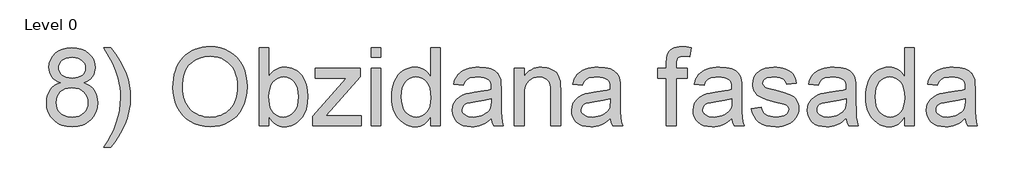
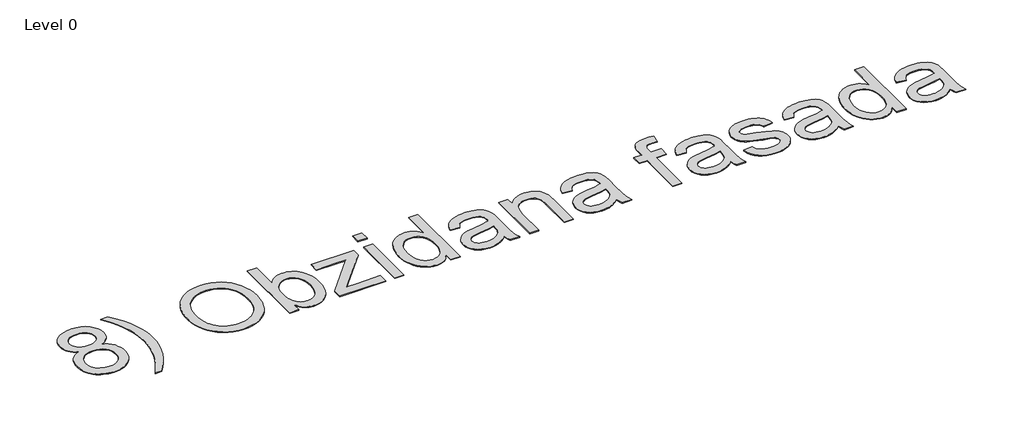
# One storey, part 7 of 11: 1 proxy.
"""IFC4 building model written with IfcOpenShell, lengths in millimetres."""

import ifcopenshell
import ifcopenshell.guid

model = None  # the IFC model being written
_history = None  # IfcOwnerHistory: only IFC2X3 demands one
_inside = {}  # id of a spatial element -> (the spatial element, [elements in it])
_under = {}  # id of a project, library or spatial element -> (it, [spatial elements below it])
_declared = {}  # id of a project -> (the project, [libraries it declares])
_typed = {}  # id of a type object -> (the type object, [elements of that type])
_made_of = {}  # id of a material, layer set ... -> (it, [elements and type objects made of it])


def new_model(schema):
    """Start an empty IFC model of exactly this schema.

    Asked for "IFC4X3", IfcOpenShell would pick the latest addendum, in which some entities
    have other attributes; the version numbers below select the first issue.
    IFC2X3 requires an IfcOwnerHistory on every rooted entity: one is made here for all.
    """
    global model, _history
    if schema == "IFC4X3":
        model = ifcopenshell.file(schema_version=(4, 3, 0, 0))
    else:
        model = ifcopenshell.file(schema=schema)
    _inside.clear()
    _under.clear()
    _declared.clear()
    _typed.clear()
    _made_of.clear()
    _history = None
    if model.schema == "IFC2X3":
        org = make("IfcOrganization", Name="unknown")
        user = make(
            "IfcPersonAndOrganization",
            ThePerson=make("IfcPerson", FamilyName="unknown"),
            TheOrganization=org,
        )
        app = make(
            "IfcApplication",
            ApplicationDeveloper=org,
            Version="unknown",
            ApplicationFullName="unknown",
            ApplicationIdentifier="unknown",
        )
        _history = make(
            "IfcOwnerHistory",
            OwningUser=user,
            OwningApplication=app,
            ChangeAction="ADDED",
            CreationDate=0,
        )
    return model


def make(cls, **values):
    """One entity of the class cls with the attributes given. An attribute that is None is left unset."""
    return model.create_entity(
        cls, **{name: value for name, value in values.items() if value is not None}
    )


def rooted(cls, **values):
    """An entity with a GlobalId (a new one), such as an element, a storey or a relation."""
    return make(cls, GlobalId=ifcopenshell.guid.new(), OwnerHistory=_history, **values)


def si_unit(unit_type, name, prefix=None):
    """IfcSIUnit, for example si_unit("LENGTHUNIT", "METRE", prefix="MILLI")."""
    return make("IfcSIUnit", UnitType=unit_type, Prefix=prefix, Name=name)


def assignment(units):
    """IfcUnitAssignment: the units of a project."""
    return None if units is None else make("IfcUnitAssignment", Units=units)


def point(xyz):
    """IfcCartesianPoint."""
    return None if xyz is None else make("IfcCartesianPoint", Coordinates=xyz)


def direction(xyz):
    """IfcDirection."""
    return None if xyz is None else make("IfcDirection", DirectionRatios=xyz)


def frame(location, z_axis=None, x_axis=None):
    """IfcAxis2Placement3D, a coordinate frame: its origin and axes. An axis left out is left unset."""
    return make(
        "IfcAxis2Placement3D",
        Location=point(location),
        Axis=direction(z_axis),
        RefDirection=direction(x_axis),
    )


def origin():
    """The frame at (0, 0, 0) with its axes left unset."""
    return frame((0.0, 0.0, 0.0))


def origin_with_axes():
    """The frame at (0, 0, 0) with the z axis (0, 0, 1) and the x axis (1, 0, 0) written out."""
    return frame((0.0, 0.0, 0.0), z_axis=(0.0, 0.0, 1.0), x_axis=(1.0, 0.0, 0.0))


def place(relative_to, where):
    """IfcLocalPlacement: puts the frame where relative to a parent placement (None: the world)."""
    return make(
        "IfcLocalPlacement", PlacementRelTo=relative_to, RelativePlacement=where
    )


def context(
    kind, dimensions, precision=None, world=None, true_north=None, identifier=None
):
    """IfcGeometricRepresentationContext, for example the 3D "Model" context."""
    return make(
        "IfcGeometricRepresentationContext",
        ContextIdentifier=identifier,
        ContextType=kind,
        CoordinateSpaceDimension=dimensions,
        Precision=precision,
        WorldCoordinateSystem=world,
        TrueNorth=true_north,
    )


def project(units=None, contexts=None):
    """IfcProject with its units and contexts."""
    return rooted(
        "IfcProject",
        Name="project",
        RepresentationContexts=contexts,
        UnitsInContext=assignment(units),
    )


def spatial(cls, under=None, at=None, **own):
    """A site, building, storey or space (cls), placed at a placement, below another one or the project."""
    s = rooted(cls, ObjectPlacement=at, **own)
    if under is not None:
        _under.setdefault(under.id(), (under, []))[1].append(s)
    return s


def polyline(points):
    """IfcPolyline through the points."""
    return make("IfcPolyline", Points=[point(p) for p in points])


def outline(outer, holes=None, kind="AREA"):
    """IfcArbitraryClosedProfileDef: a profile drawn as a closed curve; with holes, ...WithVoids."""
    if holes is None:
        return make("IfcArbitraryClosedProfileDef", ProfileType=kind, OuterCurve=outer)
    return make(
        "IfcArbitraryProfileDefWithVoids",
        ProfileType=kind,
        OuterCurve=outer,
        InnerCurves=holes,
    )


def extrude(swept, where, along, depth):
    """IfcExtrudedAreaSolid: the profile swept, set in the frame where, extruded along a direction by depth."""
    return make(
        "IfcExtrudedAreaSolid",
        SweptArea=swept,
        Position=where,
        ExtrudedDirection=direction(along),
        Depth=depth,
    )


def shape(context_of_items, identifier, shape_type, items):
    """IfcShapeRepresentation: the items that make up one representation, for example the "Body"."""
    return make(
        "IfcShapeRepresentation",
        ContextOfItems=context_of_items,
        RepresentationIdentifier=identifier,
        RepresentationType=shape_type,
        Items=items,
    )


def made_of(thing, what):
    """Note that an element or type object is made of a material, layer set ...; save() writes the relation."""
    if what is not None:
        _made_of.setdefault(what.id(), (what, []))[1].append(thing)
    return thing


def element(
    cls,
    number,
    at=None,
    inside=None,
    cuts=None,
    type_object=None,
    material=None,
    context=None,
    identifier="Body",
    shape_type=None,
    held_by="IfcProductDefinitionShape",
    body=None,
    shapes=None,
    **own,
):
    """One element of the class cls, such as IfcWall. Its Tag is "e" and its number.

    at: its placement. inside: the storey or other place that contains it. cuts: it is an
    opening in that element (IfcRelVoidsElement). A single representation is given by context,
    identifier, shape_type and body (its items); several are given by shapes. held_by: the class
    of the entity that holds the representations. save() writes the other relations.
    """
    e = rooted(cls, Tag="e%d" % number, ObjectPlacement=at, **own)
    if body is not None:
        shapes = [shape(context, identifier, shape_type, body)]
    if shapes is not None:
        e.Representation = make(held_by, Representations=shapes)
    if inside is not None:
        _inside.setdefault(inside.id(), (inside, []))[1].append(e)
    if cuts is not None:
        rooted(
            "IfcRelVoidsElement", RelatingBuildingElement=cuts, RelatedOpeningElement=e
        )
    if type_object is not None:
        _typed.setdefault(type_object.id(), (type_object, []))[1].append(e)
    return made_of(e, material)


def aggregate(whole, parts):
    """IfcRelAggregates: a whole, such as a stair, and the parts it consists of."""
    return rooted("IfcRelAggregates", RelatingObject=whole, RelatedObjects=parts)


def save(model, path):
    """Write the relations noted so far, then the file.

    IfcRelAggregates (storeys below a building ...), IfcRelContainedInSpatialStructure (elements
    in a storey), IfcRelDefinesByType, IfcRelAssociatesMaterial and IfcRelDeclares: one each for
    every whole, place, type object, material and project.
    """
    for whole, parts in _under.values():
        aggregate(whole, parts)
    for where, things in _inside.values():
        rooted(
            "IfcRelContainedInSpatialStructure",
            RelatedElements=things,
            RelatingStructure=where,
        )
    for kind, things in _typed.values():
        rooted("IfcRelDefinesByType", RelatedObjects=things, RelatingType=kind)
    for what, things in _made_of.values():
        rooted("IfcRelAssociatesMaterial", RelatedObjects=things, RelatingMaterial=what)
    for by, libraries in _declared.values():
        rooted("IfcRelDeclares", RelatingContext=by, RelatedDefinitions=libraries)
    model.write(path)


model = new_model("IFC4")

# Units and contexts
model_context = context("Model", 3, world=origin())
ifc_project = project(units=[si_unit("LENGTHUNIT", "METRE", prefix="MILLI")], contexts=[model_context])

# Site, building, storey
site = spatial("IfcSite", under=ifc_project)
building = spatial("IfcBuilding", under=site)
storey = spatial("IfcBuildingStorey", under=building, Name="Level 0", Elevation=0.0)

# Proxy
placement = place(None, origin())
element("IfcBuildingElementProxy", 1, Name="1000mm Arial", ObjectType="1000mm Arial", at=placement, inside=storey, context=model_context, shape_type="SweptSolid", body=[
    extrude(outline(polyline([(18030.4060063, -53465.6264819), (17994.2845929, -53450.5433201), (17963.1755717, -53432.5171023), (17937.0789427, -53411.5478286), (17915.9947058, -53387.6354989), (17899.7389202, -53361.0100395), (17888.1276447, -53331.9013766), (17881.1608794, -53300.3095103), (17878.8386243, -53266.2344405), (17883.8970017, -53215.0222011), (17899.072134, -53168.0712614), (17924.3640212, -53125.3816216), (17959.7726632, -53086.9532815), (18003.5966059, -53055.1928026), (18054.134395, -53032.5067462), (18111.3860305, -53018.8951124), (18175.3515124, -53014.3579011), (18239.6235627, -53019.0024113), (18297.3043938, -53032.9359419), (18348.3940059, -53056.1584928), (18392.8923989, -53088.6700641), (18428.9448344, -53127.8494966), (18454.6965741, -53171.0756311), (18470.1476179, -53218.3484674), (18475.2979658, -53269.6680058), (18473.0063676, -53302.5397949), (18466.1315728, -53333.2196204), (18454.6735815, -53361.7074824), (18438.6323936, -53388.0033809), (18417.9313672, -53411.7547622), (18392.4938601, -53432.6090728), (18362.3198723, -53450.5663127), (18327.4094038, -53465.6264819), (18368.6811651, -53483.1851829), (18404.6952796, -53505.4497078), (18435.4517472, -53532.4200566), (18460.950568, -53564.0962292), (18480.9618157, -53599.7731186), (18495.2555641, -53638.7456174), (18503.8318131, -53681.0137258), (18506.6905627, -53726.5774438), (18501.0190487, -53789.2093534), (18484.0045064, -53846.6296015), (18455.6469359, -53898.838188), (18415.9463373, -53945.8351129), (18392.3635685, -53966.6434382), (18366.9873751, -53984.6773202), (18339.8177569, -53999.9367588), (18310.854714, -54012.421754), (18247.548354, -54029.0684143), (18177.0682951, -54034.6173011), (18106.5882362, -54029.0454217), (18043.2818762, -54012.3297835), (18014.3188332, -53999.7930549), (17987.1492151, -53984.4703866), (17961.7730216, -53966.3617786), (17938.1902529, -53945.4672309), (17898.4896542, -53898.1407451), (17870.1320838, -53845.3113577), (17853.1175415, -53786.9790689), (17847.4460274, -53723.1438785), (17850.4197402, -53675.5031601), (17859.3408786, -53631.9091437), (17874.2094425, -53592.3618292), (17895.0254321, -53556.8612167), (17921.3289948, -53526.0510996), (17952.660278, -53500.5752714), (17989.0192819, -53480.4337322), (18030.4060063, -53465.6264819)]), holes=[polyline([(18004.409012, -53269.9132604), (18007.1911196, -53298.7000265), (18015.5374424, -53324.7276777), (18029.4479803, -53347.9962139), (18048.9227334, -53368.5056351), (18073.716447, -53385.2442659), (18103.5838665, -53397.2004308), (18138.5249919, -53404.3741297), (18178.539823, -53406.7653626), (18217.5659714, -53404.3894581), (18251.7483401, -53397.2617444), (18281.0869292, -53385.3822217), (18305.5817387, -53368.7508898), (18324.8955435, -53348.6706642), (18338.6911183, -53326.4444603), (18346.9684632, -53302.0722782), (18349.7275781, -53275.5541177), (18346.8764927, -53248.0012891), (18338.3232363, -53222.7323945), (18324.067809, -53199.7474341), (18304.1102107, -53179.0464076), (18279.0635782, -53161.9322306), (18249.5410481, -53149.7078185), (18215.5426204, -53142.3731712), (18177.0682951, -53139.9282888), (18138.2950656, -53142.3195218), (18104.1356895, -53149.4932207), (18074.5901668, -53161.4493855), (18049.6584974, -53178.1880163), (18029.8618475, -53198.2682419), (18015.7213833, -53220.2491911), (18007.2371048, -53244.1308639), (18004.409012, -53269.9132604)]), polyline([(17973.0164151, -53718.7292945), (17978.2587335, -53766.7685517), (17993.9856888, -53813.2749673), (18006.4860124, -53834.8497135), (18023.0177096, -53853.8339573), (18043.5807803, -53870.2276987), (18068.1752245, -53884.0309377), (18122.2538778, -53902.7929195), (18178.0493137, -53909.0469134), (18223.4520833, -53905.758968), (18263.5205639, -53895.895132), (18298.2547556, -53879.4554054), (18327.6546584, -53856.4397881), (18351.045822, -53828.3504649), (18367.7537959, -53796.6896207), (18377.7785803, -53761.4572554), (18381.1201751, -53722.6533692), (18377.6712814, -53683.228682), (18367.3246002, -53647.3601875), (18350.0801317, -53615.0478856), (18325.9378758, -53586.2917763), (18295.7408953, -53562.6860149), (18260.3322533, -53545.8247568), (18219.7119497, -53535.7080019), (18173.8799844, -53532.3357503), (18129.144001, -53535.6620167), (18089.6043507, -53545.6408158), (18055.2610336, -53562.2721477), (18026.1140497, -53585.5560123), (18002.8838346, -53613.8369407), (17986.2908237, -53645.4594638), (17976.3350172, -53680.4235818), (17973.0164151, -53718.7292945)])]), origin_with_axes(), (0.0, 0.0, 1.0), 10.0),
    extrude(outline(polyline([(18679.3498458, -54301.4543749), (18585.172055, -54301.4543749), (18636.6755344, -54221.0644947), (18681.3118831, -54140.6592862), (18719.0811013, -54060.2387492), (18749.9831889, -53979.8028838), (18774.0181459, -53899.35169), (18791.1859723, -53818.8851677), (18801.4866682, -53738.4033171), (18804.9202335, -53657.906138), (18802.9428678, -53595.1209442), (18797.0107706, -53532.581005), (18787.123942, -53470.2863205), (18773.2823819, -53408.2368906), (18743.2999993, -53309.7058296), (18703.3848028, -53215.2214705), (18659.6068454, -53134.8392545), (18585.172055, -53014.3579011), (18679.3498458, -53014.3579011), (18741.4912462, -53098.4495938), (18794.9874196, -53182.7252276), (18839.8383662, -53267.1848023), (18876.0440859, -53351.828318), (18899.8644451, -53425.6346433), (18916.8789874, -53501.1270944), (18927.0877127, -53578.3056713), (18930.4906212, -53657.170374), (18925.9150889, -53746.902924), (18912.1884919, -53835.1026323), (18889.3108304, -53921.769499), (18857.2821041, -54006.9035241), (18818.7081441, -54088.5886554), (18776.194781, -54164.908841), (18729.7420149, -54235.8640808), (18679.3498458, -54301.4543749)])), origin_with_axes(), (0.0, 0.0, 1.0), 10.0),
    extrude(outline(polyline([(19479.8610673, -53529.8832037), (19481.9533962, -53469.2784771), (19488.2303827, -53412.0536663), (19498.6920269, -53358.2087714), (19513.3383289, -53307.7437923), (19532.1692885, -53260.658729), (19555.1849058, -53216.9535815), (19582.3851808, -53176.6283499), (19613.7701136, -53139.6830341), (19648.4621521, -53106.6311361), (19685.5837447, -53077.9861579), (19725.1348913, -53053.7480993), (19767.1155919, -53033.9169605), (19811.5258465, -53018.4927414), (19858.3656551, -53007.4754421), (19907.6350177, -53000.8650625), (19959.3339344, -52998.6616026), (20026.9169226, -53002.8002751), (20091.0970023, -53015.2162924), (20151.8741736, -53035.9096547), (20209.2484364, -53064.8803618), (20261.6103071, -53101.254694), (20307.3503018, -53144.1589317), (20346.4684206, -53193.5930748), (20378.9646635, -53249.5571234), (20404.5018054, -53310.7788187), (20422.742621, -53375.9859024), (20433.6871103, -53445.1783743), (20437.3352734, -53518.3562345), (20433.4955051, -53592.4997849), (20421.9762001, -53662.6272903), (20402.7773585, -53728.7387505), (20375.8989802, -53790.8341656), (20341.9771946, -53847.273395), (20301.6481309, -53896.4162982), (20254.9117891, -53938.2628752), (20201.7681692, -53972.8131259), (20144.3096001, -53999.8524525), (20084.6284106, -54019.1662573), (20022.7246007, -54030.7545401), (19958.5981704, -54034.6173011), (19889.8348941, -54030.3483371), (19824.8117515, -54017.5414451), (19763.5287424, -53996.1966252), (19705.985867, -53966.3138773), (19653.68531, -53929.0504969), (19608.1292563, -53885.5637794), (19569.3177058, -53835.8537248), (19537.2506586, -53779.9203331), (19512.1427124, -53720.0092173), (19494.2084651, -53658.3659905), (19483.4479168, -53594.9906526), (19479.8610673, -53529.8832037)]), holes=[polyline([(19605.431455, -53531.109477), (19607.0007016, -53573.9025837), (19611.7084415, -53614.3581068), (19619.5546747, -53652.4760465), (19630.5394012, -53688.2564026), (19644.6626209, -53721.6991752), (19661.9243339, -53752.8043643), (19682.3245402, -53781.5719699), (19705.8632397, -53808.001992), (19731.7701796, -53831.6843955), (19759.2751069, -53852.2091451), (19788.3780216, -53869.576241), (19819.0789237, -53883.785683), (19851.3778133, -53894.8374713), (19885.2746902, -53902.7316058), (19920.7695546, -53907.4680865), (19957.8624064, -53909.0469134), (19995.6335406, -53907.4527581), (20031.6917243, -53902.6702921), (20066.0369574, -53894.6995156), (20098.66924, -53883.5404284), (20129.5885721, -53869.1930306), (20158.7949536, -53851.6573221), (20186.2883846, -53830.9333031), (20212.0688651, -53807.0209734), (20235.4351199, -53780.177084), (20255.6858741, -53750.658386), (20272.8211277, -53718.4648794), (20286.8408806, -53683.596564), (20297.7451328, -53646.05344), (20305.5338845, -53605.8355073), (20310.2071354, -53562.9427659), (20311.7648857, -53517.3752158), (20309.0977413, -53459.9089825), (20301.0963079, -53406.2135396), (20287.7605856, -53356.2888872), (20269.0905743, -53310.1350252), (20245.2932077, -53268.3574262), (20216.5754195, -53231.5615624), (20182.9372096, -53199.7474341), (20144.3785779, -53172.915041), (20102.0951411, -53151.6162063), (20057.2825156, -53136.402753), (20009.9407013, -53127.274681), (19960.0696984, -53124.2319903), (19890.0035067, -53130.0951096), (19824.9956925, -53147.6844675), (19794.3886769, -53160.8764859), (19765.0462557, -53177.000064), (19710.1551963, -53218.0418991), (19685.6105694, -53243.4544975), (19664.3385595, -53272.7873385), (19646.3391664, -53306.040422), (19631.6123903, -53343.213748), (19620.1582311, -53384.3073165), (19611.9766888, -53429.3211275), (19607.0677635, -53478.255181), (19605.431455, -53531.109477)])]), origin_with_axes(), (0.0, 0.0, 1.0), 10.0),
    extrude(outline(polyline([(20719.8686457, -54018.9210026), (20594.298258, -54018.9210026), (20594.298258, -53014.3579011), (20719.8686457, -53014.3579011), (20719.8686457, -53386.8997349), (20739.8492366, -53358.4463618), (20761.1633997, -53333.7867718), (20783.811135, -53312.9209649), (20807.7924426, -53295.8489411), (20833.1073224, -53282.5707003), (20859.7557744, -53273.0862426), (20887.7377987, -53267.395568), (20917.0533951, -53265.4986765), (20949.840878, -53267.2077949), (20981.7393126, -53272.3351502), (21012.7486991, -53280.8807424), (21042.8690375, -53292.8445715), (21071.226608, -53307.9047406), (21096.9476908, -53325.7393532), (21120.032286, -53346.3484091), (21140.4803935, -53369.7319084), (21174.6014486, -53424.3930416), (21200.4451588, -53489.2935569), (21216.723937, -53561.7356531), (21222.1501965, -53639.0215289), (21216.5323318, -53728.2022559), (21209.510001, -53768.7689101), (21199.6787379, -53806.6530914), (21187.0385425, -53841.8547998), (21171.5894148, -53874.3740353), (21153.3313547, -53904.210798), (21132.2643623, -53931.3650877), (21085.0605038, -53976.5379311), (21059.7628685, -53994.2844052), (21033.3347625, -54008.8042477), (21005.7761857, -54020.0974586), (20977.0871382, -54028.1640377), (20947.26762, -54033.0039852), (20916.3176312, -54034.6173011), (20885.8868924, -54032.5364685), (20857.1346152, -54026.2939709), (20830.0607996, -54015.8898082), (20804.6654456, -54001.3239805), (20780.9485532, -53982.5964877), (20758.9101225, -53959.7073298), (20738.5501533, -53932.6565068), (20719.8686457, -53901.4440188), (20719.8686457, -54018.9210026)]), holes=[polyline([(20719.8686457, -53644.9076408), (20722.014624, -53701.5001544), (20728.4525589, -53749.6313821), (20739.1824505, -53789.3013239), (20754.2042986, -53820.5099799), (20784.6312053, -53859.2448883), (20819.9938621, -53886.91268), (20860.292269, -53903.513355), (20905.526426, -53909.0469134), (20943.0810463, -53904.9695546), (20977.999179, -53892.7374783), (21010.2808241, -53872.3506844), (21039.9259815, -53843.8091729), (21064.712031, -53807.189586), (21082.416352, -53762.5685656), (21093.0389446, -53709.9461119), (21096.5798088, -53649.3222248), (21093.1845645, -53587.5487064), (21082.9988318, -53534.420415), (21066.0226106, -53489.9373504), (21042.2559008, -53454.0995127), (21013.6760683, -53426.5236915), (20982.2604788, -53406.8266763), (20948.0091322, -53395.0084672), (20910.9220286, -53391.0690642), (20873.3674082, -53395.1464229), (20838.4492755, -53407.3784993), (20806.1676304, -53427.7652932), (20776.522473, -53456.3068046), (20751.7364236, -53492.5585096), (20734.0321025, -53536.0758839), (20723.4095099, -53586.8589277), (20719.8686457, -53644.9076408)])]), origin_with_axes(), (0.0, 0.0, 1.0), 10.0),
    extrude(outline(polyline([(21284.9353903, -54018.9210026), (21284.9353903, -53900.7082548), (21718.3003806, -53406.7653626), (21590.0321917, -53406.7653626), (21316.3279872, -53406.7653626), (21316.3279872, -53281.1949749), (21897.0910303, -53281.1949749), (21897.0910303, -53387.8807535), (21512.7769727, -53826.1508371), (21453.9158534, -53893.3506149), (21599.1066142, -53893.3506149), (21912.7873288, -53893.3506149), (21912.7873288, -54018.9210026), (21284.9353903, -54018.9210026)])), origin_with_axes(), (0.0, 0.0, 1.0), 10.0),
    extrude(outline(polyline([(22038.3577164, -54018.9210026), (22038.3577164, -53281.1949749), (22163.9281041, -53281.1949749), (22163.9281041, -54018.9210026), (22038.3577164, -54018.9210026)])), origin_with_axes(), (0.0, 0.0, 1.0), 10.0),
    extrude(outline(polyline([(22038.3577164, -53139.9282888), (22038.3577164, -53014.3579011), (22163.9281041, -53014.3579011), (22163.9281041, -53139.9282888), (22038.3577164, -53139.9282888)])), origin_with_axes(), (0.0, 0.0, 1.0), 10.0),
    extrude(outline(polyline([(22807.476341, -54018.9210026), (22807.476341, -53900.4630002), (22789.6838816, -53931.9054144), (22769.9063923, -53959.1555068), (22748.143873, -53982.2132773), (22724.3963238, -54001.0787258), (22698.6637446, -54015.7518525), (22670.9461356, -54026.2326573), (22641.2434966, -54032.5211401), (22609.5558276, -54034.6173011), (22568.1077895, -54031.5822746), (22528.376534, -54022.4771952), (22490.3620612, -54007.3020629), (22454.064371, -53986.0568777), (22420.6177663, -53959.3777688), (22391.1565498, -53927.9008656), (22365.6807217, -53891.6261681), (22344.1902818, -53850.5536761), (22327.1297542, -53805.4651391), (22314.9436631, -53757.1423062), (22307.6320085, -53705.5851774), (22305.1947903, -53650.7937528), (22307.4404033, -53597.0063394), (22314.1772423, -53545.7634431), (22325.4053074, -53497.065064), (22341.1245985, -53450.911202), (22361.3274514, -53408.6507579), (22386.0062019, -53371.6326321), (22415.16085, -53339.8568248), (22448.7913957, -53313.3233359), (22485.7098868, -53292.4000474), (22524.7283709, -53277.4548413), (22565.8468481, -53268.4877177), (22609.0653183, -53265.4986765), (22640.672513, -53267.6369906), (22670.5016115, -53274.0519329), (22698.5526136, -53284.7435034), (22724.8255194, -53299.711702), (22749.029089, -53318.0981376), (22770.8720825, -53339.0444187), (22790.3544998, -53362.5505453), (22807.476341, -53388.6165175), (22807.476341, -53014.3579011), (22933.0467287, -53014.3579011), (22933.0467287, -54018.9210026), (22807.476341, -54018.9210026)]), holes=[polyline([(22430.765178, -53650.3032434), (22434.3060422, -53711.1953778), (22444.9286348, -53763.8868094), (22462.6329558, -53808.3775382), (22487.4190052, -53844.6675642), (22517.0181774, -53872.8335295), (22549.1618667, -53892.9520761), (22583.8500732, -53905.0232041), (22621.0827968, -53909.0469134), (22658.4917972, -53905.2071451), (22692.97307, -53893.6878401), (22724.5266153, -53874.4889985), (22753.1524331, -53847.6106202), (22776.9191428, -53812.8381074), (22793.895364, -53769.9568624), (22804.0810968, -53718.966885), (22807.476341, -53659.8681753), (22804.0197831, -53595.0749589), (22793.6501094, -53539.5094492), (22776.3673198, -53493.1716462), (22752.1714144, -53456.06155), (22722.9171316, -53427.6273374), (22690.4592097, -53407.3171856), (22654.7976488, -53395.1310945), (22615.9324489, -53391.0690642), (22577.9639613, -53394.9701462), (22543.2757548, -53406.6733921), (22511.8678295, -53426.1788021), (22483.7401853, -53453.486376), (22460.5636196, -53489.1939222), (22444.0089298, -53533.8992488), (22434.0761159, -53587.6023559), (22430.765178, -53650.3032434)])]), origin_with_axes(), (0.0, 0.0, 1.0), 10.0),
    extrude(outline(polyline([(23592.2912641, -53924.7432118), (23562.5158151, -53952.6869151), (23532.295842, -53976.1853775), (23501.6313449, -53995.2385992), (23470.5223237, -54009.8465801), (23438.6162248, -54020.6837705), (23405.5604947, -54028.4246208), (23371.3551333, -54033.069131), (23336.0001408, -54034.6173011), (23280.0897417, -54030.8924959), (23231.0618016, -54019.7180803), (23188.9163206, -54001.0940543), (23153.6532985, -53975.0204178), (23125.80923, -53943.15264), (23105.9206096, -53907.1461897), (23093.9874374, -53867.001067), (23090.0097133, -53822.7172718), (23096.0184526, -53770.6619695), (23103.5293766, -53746.4277431), (23114.0446703, -53723.3891331), (23141.8504178, -53682.9221137), (23177.1977462, -53651.2842621), (23218.7377548, -53627.3719324), (23265.121543, -53610.0814786), (23310.3097148, -53600.4552331), (23373.7693589, -53591.1968695), (23502.1601753, -53571.3312418), (23551.7322741, -53560.110841), (23591.5555001, -53548.0320488), (23592.2912641, -53520.0730171), (23590.1299573, -53489.630782), (23583.6460372, -53464.0323265), (23572.8395036, -53443.2776506), (23557.7103565, -53427.3667544), (23531.560078, -53411.4865149), (23499.7076286, -53400.1434867), (23462.1530083, -53393.3376698), (23418.896217, -53391.0690642), (23378.6744522, -53392.5789132), (23344.0935447, -53397.1084603), (23315.1534944, -53404.6577054), (23291.8543013, -53415.2266485), (23272.7091092, -53429.6430242), (23256.2310615, -53448.7345669), (23242.4201582, -53472.5012766), (23231.2763995, -53500.9431534), (23105.7060118, -53485.2468549), (23115.2632794, -53449.0717921), (23127.50302, -53416.5755492), (23142.4252334, -53387.7581262), (23160.0299197, -53362.6195232), (23181.0758355, -53340.6539024), (23206.3217375, -53321.3554261), (23235.7676255, -53304.7240942), (23269.4134996, -53290.7599068), (23306.5772454, -53279.7081185), (23346.5767481, -53271.8139841), (23389.4120079, -53267.0775034), (23435.0830248, -53265.4986765), (23519.9717952, -53271.0782201), (23555.8172971, -53278.0526496), (23587.2635435, -53287.8168509), (23638.000602, -53312.9861107), (23657.5519972, -53327.7090547), (23673.225303, -53343.8575415), (23696.5858097, -53382.0252985), (23711.7302852, -53429.083537), (23716.3288101, -53472.4936124), (23717.8616518, -53538.9576262), (23717.8616518, -53695.1848468), (23719.4558071, -53831.2705282), (23724.238273, -53913.33887), (23733.6805775, -53967.2642391), (23749.2542487, -54018.9210026), (23623.683861, -54018.9210026), (23603.5729786, -53975.2656725), (23592.2912641, -53924.7432118)]), holes=[polyline([(23592.2912641, -53673.6024365), (23507.9236598, -53694.5103965), (23389.7109121, -53712.1074186), (23324.5651421, -53721.7336642), (23281.6762328, -53732.4635557), (23253.563917, -53746.3817578), (23232.7479274, -53765.5729353), (23219.8720576, -53788.56556), (23215.580101, -53813.888104), (23217.9176845, -53833.4011781), (23224.9304351, -53851.2281265), (23236.6183526, -53867.368949), (23252.9814372, -53881.8236457), (23273.8664046, -53893.7338253), (23299.1199707, -53902.2410965), (23328.7421356, -53907.3454591), (23362.7328991, -53909.0469134), (23397.436434, -53907.1691824), (23430.1779315, -53901.5359893), (23460.9573918, -53892.1473342), (23489.7748147, -53879.0032171), (23515.7718091, -53863.1919555), (23538.0899834, -53845.801867), (23556.7293379, -53826.8329517), (23571.6898723, -53806.2852094), (23580.3810845, -53787.8911096), (23586.5890931, -53765.5729353), (23591.5555001, -53709.1643627), (23592.2912641, -53673.6024365)])]), origin_with_axes(), (0.0, 0.0, 1.0), 10.0),
    extrude(outline(polyline([(23890.5209348, -54018.9210026), (23890.5209348, -53281.1949749), (24016.0913225, -53281.1949749), (24016.0913225, -53384.2019336), (24036.8076774, -53356.3808577), (24059.7159958, -53332.2692586), (24084.8162777, -53311.8671363), (24112.1085233, -53295.1744908), (24141.5927323, -53282.191322), (24173.268905, -53272.91763), (24207.1370411, -53267.3534149), (24243.1971409, -53265.4986765), (24305.0932866, -53271.4767589), (24334.0869863, -53278.9493619), (24361.7777706, -53289.4110062), (24387.1156431, -53302.3022044), (24409.050607, -53317.0634695), (24427.5826625, -53333.6948013), (24442.7118096, -53352.1962), (24465.5511501, -53394.7172273), (24480.3584004, -53444.5345808), (24485.3248074, -53492.1752992), (24486.9802763, -53565.9356392), (24486.9802763, -54018.9210026), (24361.4098887, -54018.9210026), (24361.4098887, -53582.858211), (24357.7923824, -53517.9270388), (24346.9398635, -53471.7578484), (24338.3176292, -53454.2911179), (24326.9209516, -53438.6791257), (24312.7498306, -53424.9218719), (24295.8042662, -53413.0193565), (24255.9197265, -53396.5566373), (24209.597252, -53391.0690642), (24171.467816, -53394.1500759), (24136.0515098, -53403.393111), (24103.3483332, -53418.7981696), (24073.3582864, -53440.3652515), (24048.3039897, -53470.5469035), (24030.4080635, -53511.7956723), (24019.6705078, -53564.1115576), (24016.0913225, -53627.4945597), (24016.0913225, -54018.9210026), (23890.5209348, -54018.9210026)])), origin_with_axes(), (0.0, 0.0, 1.0), 10.0),
    extrude(outline(polyline([(25130.5285132, -53924.7432118), (25100.7530642, -53952.6869151), (25070.5330912, -53976.1853775), (25039.868594, -53995.2385992), (25008.7595728, -54009.8465801), (24976.853474, -54020.6837705), (24943.7977438, -54028.4246208), (24909.5923825, -54033.069131), (24874.2373899, -54034.6173011), (24818.3269909, -54030.8924959), (24769.2990508, -54019.7180803), (24727.1535697, -54001.0940543), (24691.8905477, -53975.0204178), (24664.0464791, -53943.15264), (24644.1578588, -53907.1461897), (24632.2246866, -53867.001067), (24628.2469625, -53822.7172718), (24634.2557017, -53770.6619695), (24641.7666258, -53746.4277431), (24652.2819195, -53723.3891331), (24680.087667, -53682.9221137), (24715.4349953, -53651.2842621), (24756.975004, -53627.3719324), (24803.3587922, -53610.0814786), (24848.5469639, -53600.4552331), (24912.0066081, -53591.1968695), (25040.3974244, -53571.3312418), (25089.9695233, -53560.110841), (25129.7927492, -53548.0320488), (25130.5285132, -53520.0730171), (25128.3672065, -53489.630782), (25121.8832863, -53464.0323265), (25111.0767527, -53443.2776506), (25095.9476057, -53427.3667544), (25069.7973272, -53411.4865149), (25037.9448778, -53400.1434867), (25000.3902574, -53393.3376698), (24957.1334662, -53391.0690642), (24916.9117014, -53392.5789132), (24882.3307938, -53397.1084603), (24853.3907435, -53404.6577054), (24830.0915505, -53415.2266485), (24810.9463583, -53429.6430242), (24794.4683106, -53448.7345669), (24780.6574074, -53472.5012766), (24769.5136486, -53500.9431534), (24643.9432609, -53485.2468549), (24653.5005286, -53449.0717921), (24665.7402692, -53416.5755492), (24680.6624826, -53387.7581262), (24698.2671689, -53362.6195232), (24719.3130847, -53340.6539024), (24744.5589866, -53321.3554261), (24774.0048747, -53304.7240942), (24807.6507488, -53290.7599068), (24844.8144945, -53279.7081185), (24884.8139973, -53271.8139841), (24927.6492571, -53267.0775034), (24973.320274, -53265.4986765), (25058.2090443, -53271.0782201), (25094.0545463, -53278.0526496), (25125.5007926, -53287.8168509), (25176.2378511, -53312.9861107), (25195.7892463, -53327.7090547), (25211.4625522, -53343.8575415), (25234.8230589, -53382.0252985), (25249.9675343, -53429.083537), (25254.5660593, -53472.4936124), (25256.0989009, -53538.9576262), (25256.0989009, -53695.1848468), (25257.6930562, -53831.2705282), (25262.4755222, -53913.33887), (25271.9178267, -53967.2642391), (25287.4914978, -54018.9210026), (25161.9211102, -54018.9210026), (25141.8102278, -53975.2656725), (25130.5285132, -53924.7432118)]), holes=[polyline([(25130.5285132, -53673.6024365), (25046.160909, -53694.5103965), (24927.9481612, -53712.1074186), (24862.8023912, -53721.7336642), (24819.913482, -53732.4635557), (24791.8011662, -53746.3817578), (24770.9851766, -53765.5729353), (24758.1093068, -53788.56556), (24753.8173502, -53813.888104), (24756.1549337, -53833.4011781), (24763.1676842, -53851.2281265), (24774.8556018, -53867.368949), (24791.2186863, -53881.8236457), (24812.1036538, -53893.7338253), (24837.3572199, -53902.2410965), (24866.9793847, -53907.3454591), (24900.9701482, -53909.0469134), (24935.6736831, -53907.1691824), (24968.4151807, -53901.5359893), (24999.194641, -53892.1473342), (25028.0120639, -53879.0032171), (25054.0090582, -53863.1919555), (25076.3272326, -53845.801867), (25094.966587, -53826.8329517), (25109.9271215, -53806.2852094), (25118.6183336, -53787.8911096), (25124.8263423, -53765.5729353), (25129.7927492, -53709.1643627), (25130.5285132, -53673.6024365)])]), origin_with_axes(), (0.0, 0.0, 1.0), 10.0),
    extrude(outline(polyline([(25852.5582424, -54018.9210026), (25852.5582424, -53406.7653626), (25742.6841532, -53406.7653626), (25742.6841532, -53281.1949749), (25852.5582424, -53281.1949749), (25852.5582424, -53206.8828119), (25855.8691804, -53145.3852051), (25865.8019943, -53102.1590706), (25876.7158268, -53080.1934498), (25891.0632246, -53060.4044642), (25908.8441877, -53042.7921136), (25930.0587161, -53027.3563983), (25955.1666623, -53014.8024252), (25984.6278787, -53005.8353016), (26018.4423654, -53000.4550274), (26056.6101224, -52998.6616026), (26111.1179714, -53002.0951679), (26171.1440503, -53012.3958638), (26152.7499505, -53130.1181023), (26080.3998248, -53124.2319903), (26032.6671359, -53129.4436519), (26014.9398223, -53135.9582289), (26001.3051958, -53145.0786367), (25991.1654483, -53157.7552371), (25983.9227715, -53174.938392), (25979.5771655, -53196.6281013), (25978.1286301, -53222.824365), (25978.1286301, -53281.1949749), (26119.3953163, -53281.1949749), (26119.3953163, -53406.7653626), (25978.1286301, -53406.7653626), (25978.1286301, -54018.9210026), (25852.5582424, -54018.9210026)])), origin_with_axes(), (0.0, 0.0, 1.0), 10.0),
    extrude(outline(polyline([(26700.1583593, -53924.7432118), (26670.3829103, -53952.6869151), (26640.1629373, -53976.1853775), (26609.4984401, -53995.2385992), (26578.3894189, -54009.8465801), (26546.48332, -54020.6837705), (26513.4275899, -54028.4246208), (26479.2222286, -54033.069131), (26443.867236, -54034.6173011), (26387.956837, -54030.8924959), (26338.9288969, -54019.7180803), (26296.7834158, -54001.0940543), (26261.5203937, -53975.0204178), (26233.6763252, -53943.15264), (26213.7877049, -53907.1461897), (26201.8545326, -53867.001067), (26197.8768086, -53822.7172718), (26203.8855478, -53770.6619695), (26211.3964719, -53746.4277431), (26221.9117656, -53723.3891331), (26249.7175131, -53682.9221137), (26285.0648414, -53651.2842621), (26326.6048501, -53627.3719324), (26372.9886383, -53610.0814786), (26418.17681, -53600.4552331), (26481.6364542, -53591.1968695), (26610.0272705, -53571.3312418), (26659.5993694, -53560.110841), (26699.4225953, -53548.0320488), (26700.1583593, -53520.0730171), (26697.9970526, -53489.630782), (26691.5131324, -53464.0323265), (26680.7065988, -53443.2776506), (26665.5774518, -53427.3667544), (26639.4271733, -53411.4865149), (26607.5747239, -53400.1434867), (26570.0201035, -53393.3376698), (26526.7633123, -53391.0690642), (26486.5415475, -53392.5789132), (26451.9606399, -53397.1084603), (26423.0205896, -53404.6577054), (26399.7213966, -53415.2266485), (26380.5762044, -53429.6430242), (26364.0981567, -53448.7345669), (26350.2872535, -53472.5012766), (26339.1434947, -53500.9431534), (26213.573107, -53485.2468549), (26223.1303747, -53449.0717921), (26235.3701152, -53416.5755492), (26250.2923287, -53387.7581262), (26267.897015, -53362.6195232), (26288.9429308, -53340.6539024), (26314.1888327, -53321.3554261), (26343.6347207, -53304.7240942), (26377.2805949, -53290.7599068), (26414.4443406, -53279.7081185), (26454.4438434, -53271.8139841), (26497.2791032, -53267.0775034), (26542.95012, -53265.4986765), (26627.8388904, -53271.0782201), (26663.6843923, -53278.0526496), (26695.1306387, -53287.8168509), (26745.8676972, -53312.9861107), (26765.4190924, -53327.7090547), (26781.0923983, -53343.8575415), (26804.452905, -53382.0252985), (26819.5973804, -53429.083537), (26824.1959054, -53472.4936124), (26825.728747, -53538.9576262), (26825.728747, -53695.1848468), (26827.3229023, -53831.2705282), (26832.1053683, -53913.33887), (26841.5476728, -53967.2642391), (26857.1213439, -54018.9210026), (26731.5509562, -54018.9210026), (26711.4400738, -53975.2656725), (26700.1583593, -53924.7432118)]), holes=[polyline([(26700.1583593, -53673.6024365), (26615.7907551, -53694.5103965), (26497.5780073, -53712.1074186), (26432.4322373, -53721.7336642), (26389.5433281, -53732.4635557), (26361.4310123, -53746.3817578), (26340.6150227, -53765.5729353), (26327.7391529, -53788.56556), (26323.4471963, -53813.888104), (26325.7847798, -53833.4011781), (26332.7975303, -53851.2281265), (26344.4854479, -53867.368949), (26360.8485324, -53881.8236457), (26381.7334999, -53893.7338253), (26406.987066, -53902.2410965), (26436.6092308, -53907.3454591), (26470.5999943, -53909.0469134), (26505.3035292, -53907.1691824), (26538.0450268, -53901.5359893), (26568.824487, -53892.1473342), (26597.64191, -53879.0032171), (26623.6389043, -53863.1919555), (26645.9570787, -53845.801867), (26664.5964331, -53826.8329517), (26679.5569676, -53806.2852094), (26688.2481797, -53787.8911096), (26694.4561884, -53765.5729353), (26699.4225953, -53709.1643627), (26700.1583593, -53673.6024365)])]), origin_with_axes(), (0.0, 0.0, 1.0), 10.0),
    extrude(outline(polyline([(26951.2991347, -53799.1728241), (27076.8695224, -53783.4765257), (27084.4570885, -53812.1100076), (27096.6738365, -53837.187297), (27113.5197662, -53858.7083937), (27134.9948776, -53876.6732978), (27161.1604845, -53890.8367546), (27192.0779005, -53900.9535095), (27227.7471257, -53907.0235624), (27268.1681599, -53909.0469134), (27308.5432088, -53907.192175), (27343.3387142, -53901.6279598), (27372.554676, -53892.3542678), (27396.1910942, -53879.3710991), (27414.4319098, -53863.8893985), (27427.4610638, -53847.1201109), (27435.2785562, -53829.0632363), (27437.884387, -53809.7187747), (27435.2632278, -53792.7655461), (27427.3997501, -53777.7130411), (27414.293954, -53764.5612598), (27395.9458395, -53753.3102021), (27348.9182578, -53737.368649), (27266.6966319, -53717.5030212), (27152.1013904, -53684.3629848), (27077.6052864, -53656.066728), (27052.0298235, -53641.8802786), (27029.7499702, -53625.1952973), (27010.7657264, -53606.0117841), (26995.0770921, -53584.329739), (26982.7913663, -53560.8006197), (26974.0158479, -53536.0758839), (26968.7505368, -53510.1555317), (26966.9954332, -53483.039563), (26972.6362904, -53434.3871691), (26989.5588622, -53389.4749089), (27016.2303068, -53350.0808785), (27051.1177827, -53317.9831745), (27085.7906608, -53297.7803216), (27130.9481757, -53280.8270929), (27183.1567622, -53269.3307806), (27238.9828549, -53265.4986765), (27281.1819855, -53267.0391823), (27320.7139715, -53271.6606999), (27357.5788131, -53279.3632292), (27391.7765103, -53290.1467702), (27422.4946569, -53303.5591346), (27448.9208468, -53319.1481341), (27471.0550802, -53336.9137688), (27488.897357, -53356.8560386), (27503.3673821, -53379.6723865), (27515.3848606, -53406.0602555), (27524.9497925, -53436.0196455), (27532.0621777, -53469.5505565), (27406.4917901, -53485.2468549), (27400.5060434, -53464.269917), (27390.6422074, -53445.7301973), (27376.9002821, -53429.6276958), (27359.2802673, -53415.9624125), (27337.7055212, -53405.0715726), (27312.0994015, -53397.2924013), (27282.4619082, -53392.6248984), (27248.7930415, -53391.0690642), (27209.7362363, -53392.5559206), (27176.6881704, -53397.0164898), (27149.6488438, -53404.4507717), (27128.6182564, -53414.8587665), (27112.8453158, -53427.244127), (27101.5789297, -53440.6105062), (27094.8190981, -53454.957904), (27092.5658208, -53470.2863205), (27096.3059545, -53489.6001252), (27107.5263553, -53506.8292653), (27126.7175327, -53522.2189954), (27154.369996, -53534.5430423), (27262.5273026, -53561.2758006), (27373.474381, -53594.0786118), (27446.8361822, -53620.3821745), (27472.6492355, -53633.2120591), (27495.5192329, -53648.6477745), (27515.4461743, -53666.6893206), (27532.4300597, -53687.3366976), (27546.0033725, -53710.6205622), (27555.6985959, -53736.5715713), (27561.51573, -53765.1897248), (27563.4547747, -53796.4750229), (27561.1785048, -53827.8982766), (27554.3496953, -53858.4018254), (27542.9683461, -53887.9856692), (27527.0344571, -53916.6498079), (27506.8086116, -53943.2522747), (27482.5513926, -53966.6511025), (27454.2628, -53986.8462911), (27421.9428339, -54003.8378408), (27386.4728782, -54017.3038547), (27348.7343168, -54026.922436), (27308.7271498, -54032.6935848), (27266.4513772, -54034.6173011), (27198.868389, -54030.9078243), (27139.8386572, -54019.7793939), (27089.3621818, -54001.23201), (27047.4389628, -53975.2656725), (27013.1952804, -53942.0030088), (26985.7574149, -53901.5666461), (26965.1253663, -53853.9565846), (26951.2991347, -53799.1728241)])), origin_with_axes(), (0.0, 0.0, 1.0), 10.0),
    extrude(outline(polyline([(28175.6104146, -53924.7432118), (28145.8349657, -53952.6869151), (28115.6149926, -53976.1853775), (28084.9504955, -53995.2385992), (28053.8414742, -54009.8465801), (28021.9353754, -54020.6837705), (27988.8796453, -54028.4246208), (27954.6742839, -54033.069131), (27919.3192913, -54034.6173011), (27863.4088923, -54030.8924959), (27814.3809522, -54019.7180803), (27772.2354711, -54001.0940543), (27736.9724491, -53975.0204178), (27709.1283806, -53943.15264), (27689.2397602, -53907.1461897), (27677.306588, -53867.001067), (27673.3288639, -53822.7172718), (27679.3376032, -53770.6619695), (27686.8485272, -53746.4277431), (27697.3638209, -53723.3891331), (27725.1695684, -53682.9221137), (27760.5168968, -53651.2842621), (27802.0569054, -53627.3719324), (27848.4406936, -53610.0814786), (27893.6288653, -53600.4552331), (27957.0885095, -53591.1968695), (28085.4793258, -53571.3312418), (28135.0514247, -53560.110841), (28174.8746507, -53548.0320488), (28175.6104146, -53520.0730171), (28173.4491079, -53489.630782), (28166.9651878, -53464.0323265), (28156.1586541, -53443.2776506), (28141.0295071, -53427.3667544), (28114.8792286, -53411.4865149), (28083.0267792, -53400.1434867), (28045.4721589, -53393.3376698), (28002.2153676, -53391.0690642), (27961.9936028, -53392.5789132), (27927.4126952, -53397.1084603), (27898.4726449, -53404.6577054), (27875.1734519, -53415.2266485), (27856.0282598, -53429.6430242), (27839.5502121, -53448.7345669), (27825.7393088, -53472.5012766), (27814.59555, -53500.9431534), (27689.0251624, -53485.2468549), (27698.58243, -53449.0717921), (27710.8221706, -53416.5755492), (27725.744384, -53387.7581262), (27743.3490703, -53362.6195232), (27764.3949861, -53340.6539024), (27789.640888, -53321.3554261), (27819.0867761, -53304.7240942), (27852.7326502, -53290.7599068), (27889.8963959, -53279.7081185), (27929.8958987, -53271.8139841), (27972.7311585, -53267.0775034), (28018.4021754, -53265.4986765), (28103.2909458, -53271.0782201), (28139.1364477, -53278.0526496), (28170.582694, -53287.8168509), (28221.3197525, -53312.9861107), (28240.8711477, -53327.7090547), (28256.5444536, -53343.8575415), (28279.9049603, -53382.0252985), (28295.0494357, -53429.083537), (28299.6479607, -53472.4936124), (28301.1808023, -53538.9576262), (28301.1808023, -53695.1848468), (28302.7749576, -53831.2705282), (28307.5574236, -53913.33887), (28316.9997281, -53967.2642391), (28332.5733993, -54018.9210026), (28207.0030116, -54018.9210026), (28186.8921292, -53975.2656725), (28175.6104146, -53924.7432118)]), holes=[polyline([(28175.6104146, -53673.6024365), (28091.2428104, -53694.5103965), (27973.0300626, -53712.1074186), (27907.8842927, -53721.7336642), (27864.9953834, -53732.4635557), (27836.8830676, -53746.3817578), (27816.067078, -53765.5729353), (27803.1912082, -53788.56556), (27798.8992516, -53813.888104), (27801.2368351, -53833.4011781), (27808.2495856, -53851.2281265), (27819.9375032, -53867.368949), (27836.3005878, -53881.8236457), (27857.1855552, -53893.7338253), (27882.4391213, -53902.2410965), (27912.0612861, -53907.3454591), (27946.0520497, -53909.0469134), (27980.7555845, -53907.1691824), (28013.4970821, -53901.5359893), (28044.2765424, -53892.1473342), (28073.0939653, -53879.0032171), (28099.0909596, -53863.1919555), (28121.409134, -53845.801867), (28140.0484884, -53826.8329517), (28155.0090229, -53806.2852094), (28163.7002351, -53787.8911096), (28169.9082437, -53765.5729353), (28174.8746507, -53709.1643627), (28175.6104146, -53673.6024365)])]), origin_with_axes(), (0.0, 0.0, 1.0), 10.0),
    extrude(outline(polyline([(28929.0327408, -54018.9210026), (28929.0327408, -53900.4630002), (28911.2402814, -53931.9054144), (28891.462792, -53959.1555068), (28869.7002727, -53982.2132773), (28845.9527235, -54001.0787258), (28820.2201444, -54015.7518525), (28792.5025353, -54026.2326573), (28762.7998963, -54032.5211401), (28731.1122274, -54034.6173011), (28689.6641892, -54031.5822746), (28649.9329338, -54022.4771952), (28611.9184609, -54007.3020629), (28575.6207707, -53986.0568777), (28542.174166, -53959.3777688), (28512.7129496, -53927.9008656), (28487.2371214, -53891.6261681), (28465.7466815, -53850.5536761), (28448.686154, -53805.4651391), (28436.5000629, -53757.1423062), (28429.1884082, -53705.5851774), (28426.75119, -53650.7937528), (28428.996803, -53597.0063394), (28435.7336421, -53545.7634431), (28446.9617071, -53497.065064), (28462.6809982, -53450.911202), (28482.8838511, -53408.6507579), (28507.5626016, -53371.6326321), (28536.7172497, -53339.8568248), (28570.3477955, -53313.3233359), (28607.2662865, -53292.4000474), (28646.2847706, -53277.4548413), (28687.4032478, -53268.4877177), (28730.621718, -53265.4986765), (28762.2289128, -53267.6369906), (28792.0580112, -53274.0519329), (28820.1090134, -53284.7435034), (28846.3819192, -53299.711702), (28870.5854888, -53318.0981376), (28892.4284822, -53339.0444187), (28911.9108996, -53362.5505453), (28929.0327408, -53388.6165175), (28929.0327408, -53014.3579011), (29054.6031285, -53014.3579011), (29054.6031285, -54018.9210026), (28929.0327408, -54018.9210026)]), holes=[polyline([(28552.3215777, -53650.3032434), (28555.8624419, -53711.1953778), (28566.4850345, -53763.8868094), (28584.1893555, -53808.3775382), (28608.975405, -53844.6675642), (28638.5745772, -53872.8335295), (28670.7182665, -53892.9520761), (28705.4064729, -53905.0232041), (28742.6391965, -53909.0469134), (28780.0481969, -53905.2071451), (28814.5294698, -53893.6878401), (28846.0830151, -53874.4889985), (28874.7088328, -53847.6106202), (28898.4755425, -53812.8381074), (28915.4517638, -53769.9568624), (28925.6374965, -53718.966885), (28929.0327408, -53659.8681753), (28925.5761829, -53595.0749589), (28915.2065091, -53539.5094492), (28897.9237195, -53493.1716462), (28873.7278142, -53456.06155), (28844.4735313, -53427.6273374), (28812.0156095, -53407.3171856), (28776.3540486, -53395.1310945), (28737.4888486, -53391.0690642), (28699.520361, -53394.9701462), (28664.8321546, -53406.6733921), (28633.4242292, -53426.1788021), (28605.296585, -53453.486376), (28582.1200193, -53489.1939222), (28565.5653295, -53533.8992488), (28555.6325157, -53587.6023559), (28552.3215777, -53650.3032434)])]), origin_with_axes(), (0.0, 0.0, 1.0), 10.0),
    extrude(outline(polyline([(29713.8476638, -53924.7432118), (29684.0722148, -53952.6869151), (29653.8522418, -53976.1853775), (29623.1877446, -53995.2385992), (29592.0787234, -54009.8465801), (29560.1726245, -54020.6837705), (29527.1168944, -54028.4246208), (29492.9115331, -54033.069131), (29457.5565405, -54034.6173011), (29401.6461414, -54030.8924959), (29352.6182014, -54019.7180803), (29310.4727203, -54001.0940543), (29275.2096982, -53975.0204178), (29247.3656297, -53943.15264), (29227.4770094, -53907.1461897), (29215.5438371, -53867.001067), (29211.5661131, -53822.7172718), (29217.5748523, -53770.6619695), (29225.0857764, -53746.4277431), (29235.6010701, -53723.3891331), (29263.4068175, -53682.9221137), (29298.7541459, -53651.2842621), (29340.2941545, -53627.3719324), (29386.6779428, -53610.0814786), (29431.8661145, -53600.4552331), (29495.3257587, -53591.1968695), (29623.716575, -53571.3312418), (29673.2886738, -53560.110841), (29713.1118998, -53548.0320488), (29713.8476638, -53520.0730171), (29711.6863571, -53489.630782), (29705.2024369, -53464.0323265), (29694.3959033, -53443.2776506), (29679.2667563, -53427.3667544), (29653.1164778, -53411.4865149), (29621.2640284, -53400.1434867), (29583.709408, -53393.3376698), (29540.4526168, -53391.0690642), (29500.2308519, -53392.5789132), (29465.6499444, -53397.1084603), (29436.7098941, -53404.6577054), (29413.4107011, -53415.2266485), (29394.2655089, -53429.6430242), (29377.7874612, -53448.7345669), (29363.976558, -53472.5012766), (29352.8327992, -53500.9431534), (29227.2624115, -53485.2468549), (29236.8196792, -53449.0717921), (29249.0594197, -53416.5755492), (29263.9816332, -53387.7581262), (29281.5863195, -53362.6195232), (29302.6322353, -53340.6539024), (29327.8781372, -53321.3554261), (29357.3240252, -53304.7240942), (29390.9698994, -53290.7599068), (29428.1336451, -53279.7081185), (29468.1331479, -53271.8139841), (29510.9684077, -53267.0775034), (29556.6394245, -53265.4986765), (29641.5281949, -53271.0782201), (29677.3736968, -53278.0526496), (29708.8199432, -53287.8168509), (29759.5570017, -53312.9861107), (29779.1083969, -53327.7090547), (29794.7817027, -53343.8575415), (29818.1422094, -53382.0252985), (29833.2866849, -53429.083537), (29837.8852099, -53472.4936124), (29839.4180515, -53538.9576262), (29839.4180515, -53695.1848468), (29841.0122068, -53831.2705282), (29845.7946727, -53913.33887), (29855.2369773, -53967.2642391), (29870.8106484, -54018.9210026), (29745.2402607, -54018.9210026), (29725.1293783, -53975.2656725), (29713.8476638, -53924.7432118)]), holes=[polyline([(29713.8476638, -53673.6024365), (29629.4800596, -53694.5103965), (29511.2673118, -53712.1074186), (29446.1215418, -53721.7336642), (29403.2326325, -53732.4635557), (29375.1203168, -53746.3817578), (29354.3043272, -53765.5729353), (29341.4284574, -53788.56556), (29337.1365007, -53813.888104), (29339.4740843, -53833.4011781), (29346.4868348, -53851.2281265), (29358.1747523, -53867.368949), (29374.5378369, -53881.8236457), (29395.4228044, -53893.7338253), (29420.6763705, -53902.2410965), (29450.2985353, -53907.3454591), (29484.2892988, -53909.0469134), (29518.9928337, -53907.1691824), (29551.7343313, -53901.5359893), (29582.5137915, -53892.1473342), (29611.3312145, -53879.0032171), (29637.3282088, -53863.1919555), (29659.6463832, -53845.801867), (29678.2857376, -53826.8329517), (29693.2462721, -53806.2852094), (29701.9374842, -53787.8911096), (29708.1454929, -53765.5729353), (29713.1118998, -53709.1643627), (29713.8476638, -53673.6024365)])]), origin_with_axes(), (0.0, 0.0, 1.0), 10.0),
])

save(model, "model.ifc")
